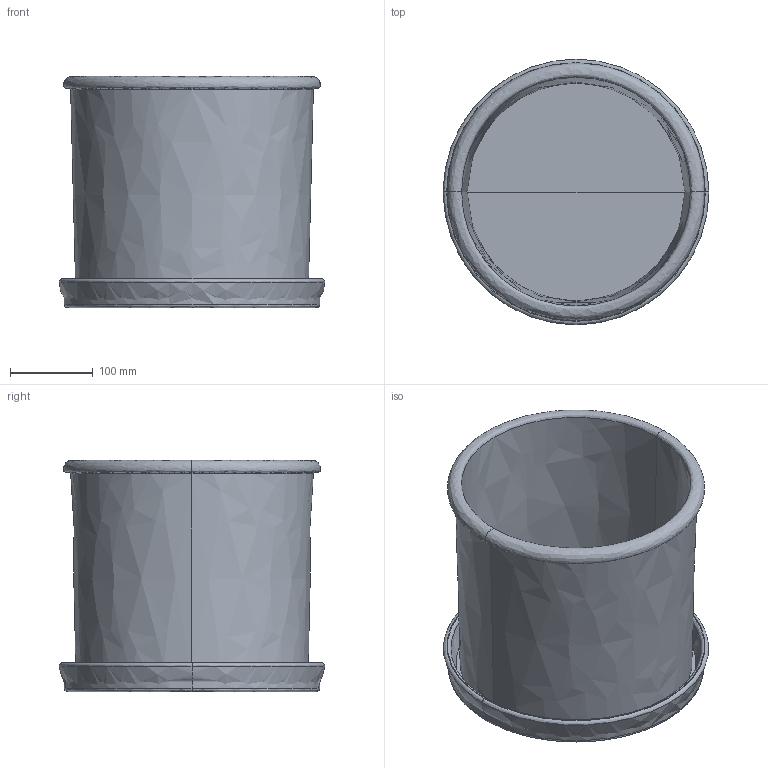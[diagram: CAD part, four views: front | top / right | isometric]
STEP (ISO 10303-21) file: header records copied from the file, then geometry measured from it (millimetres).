
FILE_DESCRIPTION(/* description */ (''),/* implementation_level */ '2;1');
FILE_NAME(/* name */ '30',/* time_stamp */ '2026-07-13T09:30:59+02:00',/* author */ (''),/* organization */ (''),/* preprocessor_version */ 'ST-DEVELOPER v19.2',/* originating_system */ 'Rhino 8.32',/* authorisation */ '');
FILE_SCHEMA (('CONFIG_CONTROL_DESIGN'));
Length unit declared in the file: millimetre
Products named in the file (1): Document
Bounding box: 319.94 x 319.94 x 279 mm (x, y, z)
Volume: 3664031 mm3; surface area: 799127.4 mm2
Topology: 2 solids, 2 shells, 26 faces, 48 edges, 26 vertices
Faces by surface type: bspline 16, plane 10
Entity records: 1939 total; most frequent: CARTESIAN_POINT 1424, ORIENTED_EDGE 96, DIRECTION 68, EDGE_CURVE 48, AXIS2_PLACEMENT_3D 39, TRIMMED_CURVE 27, CIRCLE 27, ADVANCED_FACE 26
